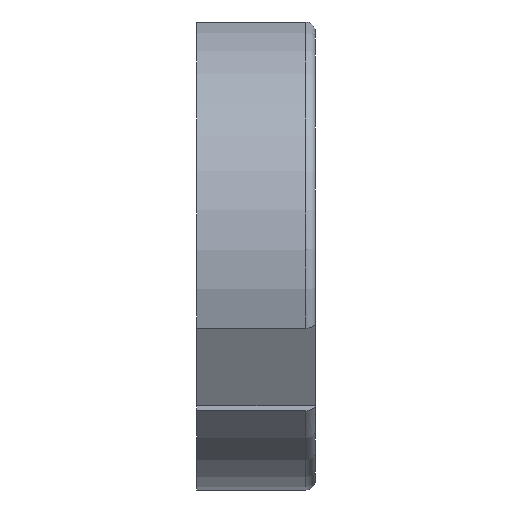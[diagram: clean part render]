
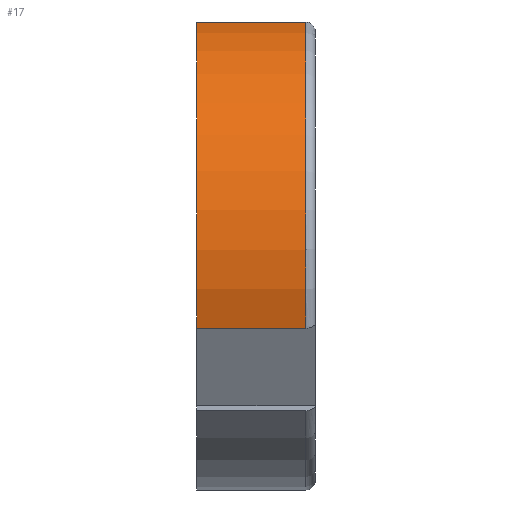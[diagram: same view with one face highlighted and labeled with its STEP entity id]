
A CAD part, front view. The second image highlights one B-rep face of the part: STEP entity #17.
In plain terms, the highlighted cylindrical face has radius 9.95 mm (diameter 19.9 mm), a partial arc.
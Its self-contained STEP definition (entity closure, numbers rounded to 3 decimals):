
#17 = ADVANCED_FACE('',(#18),#33,.T.);
#18 = FACE_BOUND('',#19,.T.);
#19 = EDGE_LOOP('',(#20,#56,#82,#111));
#20 = ORIENTED_EDGE('',*,*,#21,.F.);
#21 = EDGE_CURVE('',#22,#24,#26,.T.);
#22 = VERTEX_POINT('',#23);
#23 = CARTESIAN_POINT('',(-19.,-2.,190.747));
#24 = VERTEX_POINT('',#25);
#25 = CARTESIAN_POINT('',(-19.,-9.441,177.859));
#26 = SURFACE_CURVE('',#27,(#32,#44),.PCURVE_S1.);
#27 = CIRCLE('',#28,9.95);
#28 = AXIS2_PLACEMENT_3D('',#29,#30,#31);
#29 = CARTESIAN_POINT('',(-19.,0.,181.));
#30 = DIRECTION('',(1.,0.,0.));
#31 = DIRECTION('',(-0.,0.,1.));
#32 = PCURVE('',#33,#38);
#33 = CYLINDRICAL_SURFACE('',#34,9.95);
#34 = AXIS2_PLACEMENT_3D('',#35,#36,#37);
#35 = CARTESIAN_POINT('',(-23.6,0.,181.));
#36 = DIRECTION('',(1.,0.,0.));
#37 = DIRECTION('',(-0.,0.,1.));
#38 = DEFINITIONAL_REPRESENTATION('',(#39),#43);
#39 = LINE('',#40,#41);
#40 = CARTESIAN_POINT('',(0.,4.6));
#41 = VECTOR('',#42,1.);
#42 = DIRECTION('',(1.,0.));
#43 = ( GEOMETRIC_REPRESENTATION_CONTEXT(2) 
PARAMETRIC_REPRESENTATION_CONTEXT() REPRESENTATION_CONTEXT('2D SPACE',''
  ) );
#44 = PCURVE('',#45,#50);
#45 = TOROIDAL_SURFACE('',#46,9.55,0.4);
#46 = AXIS2_PLACEMENT_3D('',#47,#48,#49);
#47 = CARTESIAN_POINT('',(-19.,0.,181.));
#48 = DIRECTION('',(1.,0.,0.));
#49 = DIRECTION('',(-0.,0.,1.));
#50 = DEFINITIONAL_REPRESENTATION('',(#51),#55);
#51 = LINE('',#52,#53);
#52 = CARTESIAN_POINT('',(0.,0.));
#53 = VECTOR('',#54,1.);
#54 = DIRECTION('',(1.,0.));
#55 = ( GEOMETRIC_REPRESENTATION_CONTEXT(2) 
PARAMETRIC_REPRESENTATION_CONTEXT() REPRESENTATION_CONTEXT('2D SPACE',''
  ) );
#56 = ORIENTED_EDGE('',*,*,#57,.F.);
#57 = EDGE_CURVE('',#58,#22,#60,.T.);
#58 = VERTEX_POINT('',#59);
#59 = CARTESIAN_POINT('',(-23.6,-2.,190.747));
#60 = SURFACE_CURVE('',#61,(#65,#71),.PCURVE_S1.);
#61 = LINE('',#62,#63);
#62 = CARTESIAN_POINT('',(-23.6,-2.,190.747));
#63 = VECTOR('',#64,1.);
#64 = DIRECTION('',(1.,0.,0.));
#65 = PCURVE('',#33,#66);
#66 = DEFINITIONAL_REPRESENTATION('',(#67),#70);
#67 = B_SPLINE_CURVE_WITH_KNOTS('',1,(#68,#69),.UNSPECIFIED.,.F.,.F.,(2,
    2),(0.,4.6),.PIECEWISE_BEZIER_KNOTS.);
#68 = CARTESIAN_POINT('',(0.202,0.));
#69 = CARTESIAN_POINT('',(0.202,4.6));
#70 = ( GEOMETRIC_REPRESENTATION_CONTEXT(2) 
PARAMETRIC_REPRESENTATION_CONTEXT() REPRESENTATION_CONTEXT('2D SPACE',''
  ) );
#71 = PCURVE('',#72,#77);
#72 = PLANE('',#73);
#73 = AXIS2_PLACEMENT_3D('',#74,#75,#76);
#74 = CARTESIAN_POINT('',(-24.6,-2.,190.35));
#75 = DIRECTION('',(0.,-1.,0.));
#76 = DIRECTION('',(1.,0.,0.));
#77 = DEFINITIONAL_REPRESENTATION('',(#78),#81);
#78 = B_SPLINE_CURVE_WITH_KNOTS('',1,(#79,#80),.UNSPECIFIED.,.F.,.F.,(2,
    2),(0.,4.6),.PIECEWISE_BEZIER_KNOTS.);
#79 = CARTESIAN_POINT('',(1.,0.397));
#80 = CARTESIAN_POINT('',(5.6,0.397));
#81 = ( GEOMETRIC_REPRESENTATION_CONTEXT(2) 
PARAMETRIC_REPRESENTATION_CONTEXT() REPRESENTATION_CONTEXT('2D SPACE',''
  ) );
#82 = ORIENTED_EDGE('',*,*,#83,.T.);
#83 = EDGE_CURVE('',#58,#84,#86,.T.);
#84 = VERTEX_POINT('',#85);
#85 = CARTESIAN_POINT('',(-23.6,-9.441,177.859));
#86 = SURFACE_CURVE('',#87,(#92,#99),.PCURVE_S1.);
#87 = CIRCLE('',#88,9.95);
#88 = AXIS2_PLACEMENT_3D('',#89,#90,#91);
#89 = CARTESIAN_POINT('',(-23.6,0.,181.));
#90 = DIRECTION('',(1.,0.,0.));
#91 = DIRECTION('',(-0.,0.,1.));
#92 = PCURVE('',#33,#93);
#93 = DEFINITIONAL_REPRESENTATION('',(#94),#98);
#94 = LINE('',#95,#96);
#95 = CARTESIAN_POINT('',(0.,0.));
#96 = VECTOR('',#97,1.);
#97 = DIRECTION('',(1.,0.));
#98 = ( GEOMETRIC_REPRESENTATION_CONTEXT(2) 
PARAMETRIC_REPRESENTATION_CONTEXT() REPRESENTATION_CONTEXT('2D SPACE',''
  ) );
#99 = PCURVE('',#100,#105);
#100 = PLANE('',#101);
#101 = AXIS2_PLACEMENT_3D('',#102,#103,#104);
#102 = CARTESIAN_POINT('',(-23.6,0.,181.));
#103 = DIRECTION('',(1.,0.,0.));
#104 = DIRECTION('',(-0.,0.,1.));
#105 = DEFINITIONAL_REPRESENTATION('',(#106),#110);
#106 = CIRCLE('',#107,9.95);
#107 = AXIS2_PLACEMENT_2D('',#108,#109);
#108 = CARTESIAN_POINT('',(0.,0.));
#109 = DIRECTION('',(1.,0.));
#110 = ( GEOMETRIC_REPRESENTATION_CONTEXT(2) 
PARAMETRIC_REPRESENTATION_CONTEXT() REPRESENTATION_CONTEXT('2D SPACE',''
  ) );
#111 = ORIENTED_EDGE('',*,*,#112,.T.);
#112 = EDGE_CURVE('',#84,#24,#113,.T.);
#113 = SURFACE_CURVE('',#114,(#118,#124),.PCURVE_S1.);
#114 = LINE('',#115,#116);
#115 = CARTESIAN_POINT('',(-23.6,-9.441,177.859));
#116 = VECTOR('',#117,1.);
#117 = DIRECTION('',(1.,0.,0.));
#118 = PCURVE('',#33,#119);
#119 = DEFINITIONAL_REPRESENTATION('',(#120),#123);
#120 = B_SPLINE_CURVE_WITH_KNOTS('',1,(#121,#122),.UNSPECIFIED.,.F.,.F.,
  (2,2),(0.,4.6),.PIECEWISE_BEZIER_KNOTS.);
#121 = CARTESIAN_POINT('',(1.892,0.));
#122 = CARTESIAN_POINT('',(1.892,4.6));
#123 = ( GEOMETRIC_REPRESENTATION_CONTEXT(2) 
PARAMETRIC_REPRESENTATION_CONTEXT() REPRESENTATION_CONTEXT('2D SPACE',''
  ) );
#124 = PCURVE('',#125,#130);
#125 = PLANE('',#126);
#126 = AXIS2_PLACEMENT_3D('',#127,#128,#129);
#127 = CARTESIAN_POINT('',(-24.6,-9.097,178.057));
#128 = DIRECTION('',(0.,0.5,-0.866));
#129 = DIRECTION('',(1.,-0.,0.));
#130 = DEFINITIONAL_REPRESENTATION('',(#131),#134);
#131 = B_SPLINE_CURVE_WITH_KNOTS('',1,(#132,#133),.UNSPECIFIED.,.F.,.F.,
  (2,2),(0.,4.6),.PIECEWISE_BEZIER_KNOTS.);
#132 = CARTESIAN_POINT('',(1.,0.397));
#133 = CARTESIAN_POINT('',(5.6,0.397));
#134 = ( GEOMETRIC_REPRESENTATION_CONTEXT(2) 
PARAMETRIC_REPRESENTATION_CONTEXT() REPRESENTATION_CONTEXT('2D SPACE',''
  ) );
